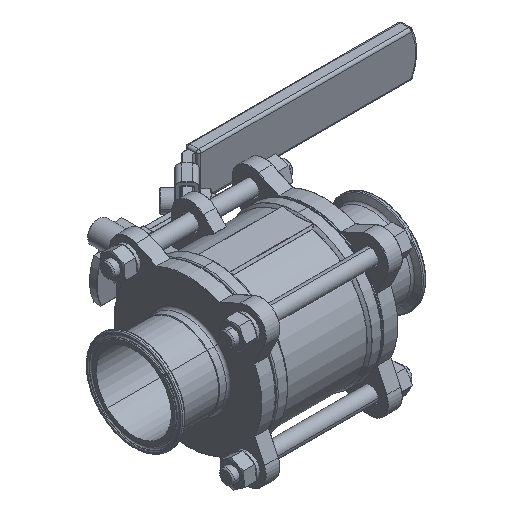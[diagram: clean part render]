
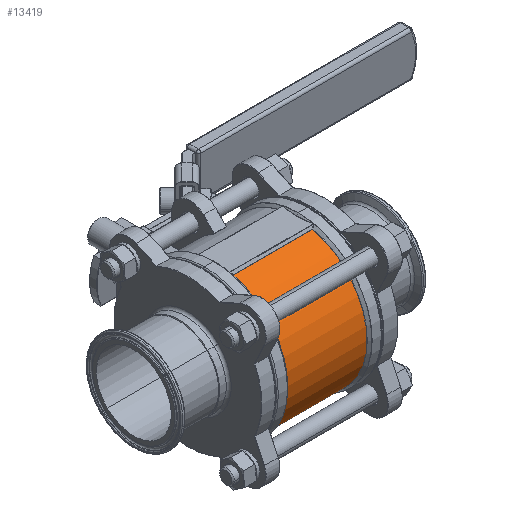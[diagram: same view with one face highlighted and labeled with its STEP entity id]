
A CAD part, isometric view. The second image highlights one B-rep face of the part: STEP entity #13419.
In plain terms, the highlighted cylindrical face has radius 57.5 mm (diameter 115 mm), a partial arc.
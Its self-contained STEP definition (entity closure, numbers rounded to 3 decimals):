
#131 = FACE_OUTER_BOUND ( 'NONE', #25434, .T. ) ;
#227 = CARTESIAN_POINT ( 'NONE',  ( 31.917, 0., 0. ) ) ;
#451 = ORIENTED_EDGE ( 'NONE', *, *, #16439, .T. ) ;
#2334 = CYLINDRICAL_SURFACE ( 'NONE', #15790, 57.5 ) ;
#3033 = VERTEX_POINT ( 'NONE', #17048 ) ;
#3171 = LINE ( 'NONE', #4146, #24100 ) ;
#3561 = ORIENTED_EDGE ( 'NONE', *, *, #14950, .T. ) ;
#4146 = CARTESIAN_POINT ( 'NONE',  ( 24.418, -13.82, 55.815 ) ) ;
#6096 = CIRCLE ( 'NONE', #6229, 57.5 ) ;
#6229 = AXIS2_PLACEMENT_3D ( 'NONE', #8750, #14797, #25235 ) ;
#7833 = DIRECTION ( 'NONE',  ( 1., 0., 0. ) ) ;
#8076 = DIRECTION ( 'NONE',  ( 0., 0., -1. ) ) ;
#8750 = CARTESIAN_POINT ( 'NONE',  ( -31.917, 0., 0. ) ) ;
#9228 = ORIENTED_EDGE ( 'NONE', *, *, #12267, .T. ) ;
#10748 = CARTESIAN_POINT ( 'NONE',  ( -31.917, -13.82, 55.815 ) ) ;
#11906 = VERTEX_POINT ( 'NONE', #12588 ) ;
#12267 = EDGE_CURVE ( 'NONE', #11906, #13400, #20172, .T. ) ;
#12395 = VERTEX_POINT ( 'NONE', #10748 ) ;
#12588 = CARTESIAN_POINT ( 'NONE',  ( 31.917, -13.82, -55.815 ) ) ;
#13159 = ORIENTED_EDGE ( 'NONE', *, *, #14057, .T. ) ;
#13400 = VERTEX_POINT ( 'NONE', #20355 ) ;
#13419 = ADVANCED_FACE ( 'NONE', ( #131 ), #2334, .T. ) ;
#14057 = EDGE_CURVE ( 'NONE', #12395, #3033, #6096, .T. ) ;
#14385 = DIRECTION ( 'NONE',  ( -1., 0., 0. ) ) ;
#14797 = DIRECTION ( 'NONE',  ( 1., 0., 0. ) ) ;
#14950 = EDGE_CURVE ( 'NONE', #3033, #11906, #18138, .T. ) ;
#15790 = AXIS2_PLACEMENT_3D ( 'NONE', #18568, #22620, #8076 ) ;
#16177 = DIRECTION ( 'NONE',  ( 0., 0., -1. ) ) ;
#16439 = EDGE_CURVE ( 'NONE', #13400, #12395, #3171, .T. ) ;
#17048 = CARTESIAN_POINT ( 'NONE',  ( -31.917, -13.82, -55.815 ) ) ;
#17486 = VECTOR ( 'NONE', #7833, 1000. ) ;
#18138 = LINE ( 'NONE', #22033, #17486 ) ;
#18568 = CARTESIAN_POINT ( 'NONE',  ( 24.418, 0., 0. ) ) ;
#20172 = CIRCLE ( 'NONE', #20343, 57.5 ) ;
#20343 = AXIS2_PLACEMENT_3D ( 'NONE', #227, #14385, #16177 ) ;
#20355 = CARTESIAN_POINT ( 'NONE',  ( 31.917, -13.82, 55.815 ) ) ;
#20397 = DIRECTION ( 'NONE',  ( -1., 0., 0. ) ) ;
#22033 = CARTESIAN_POINT ( 'NONE',  ( 24.418, -13.82, -55.815 ) ) ;
#22620 = DIRECTION ( 'NONE',  ( 1., 0., 0. ) ) ;
#24100 = VECTOR ( 'NONE', #20397, 1000. ) ;
#25235 = DIRECTION ( 'NONE',  ( 0., 0., -1. ) ) ;
#25434 = EDGE_LOOP ( 'NONE', ( #451, #13159, #3561, #9228 ) ) ;
